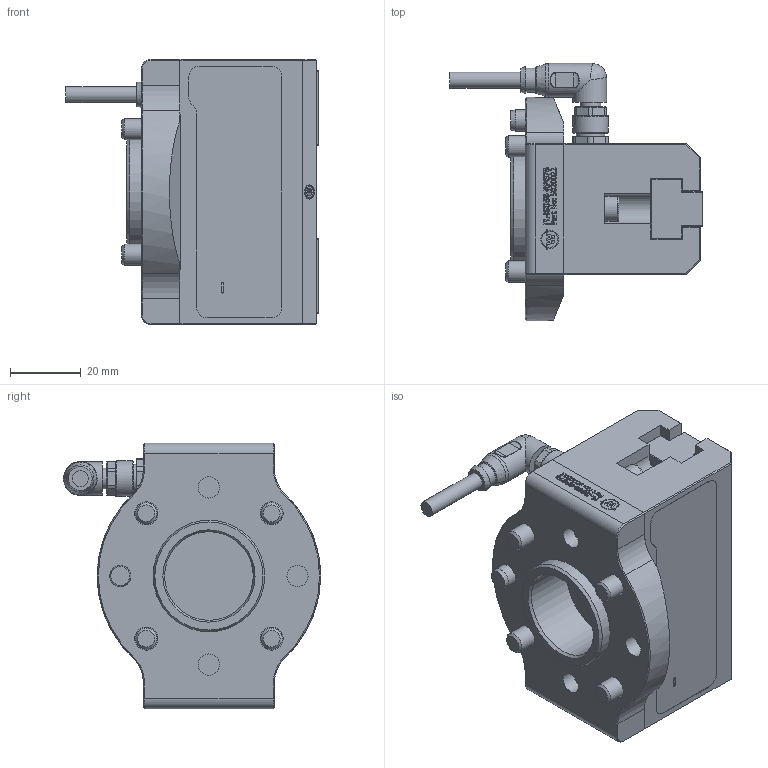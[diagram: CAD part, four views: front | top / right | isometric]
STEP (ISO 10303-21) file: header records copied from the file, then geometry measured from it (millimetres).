
FILE_DESCRIPTION((''),'2;1');
FILE_SCHEMA(('AUTOMOTIVE_DESIGN { 1 0 10303 214 1 1 1 1 }'));
Length unit declared in the file: millimetre
Products named in the file (13): FL-ISO50-RPG75 Zusammenbau.iam (GRIPKIT-P1); FL-ISO50-RPG75 - CUSTOMER; RPG75-012_customer; RPG75-012_Grundkörper; RPG75-012_Grundbacke; RPG75-012_Abdeckung; Zierschraube MIB M2x2; DIN 913 M4 x 6; Sensor-Aktor-Leitung PUR 4x0.25qmm pol. 5 m - Art.-Nr. 4020007; Zentrierhülse 6-4-5; ISO 4762 M6 x 10; ISO 4762 M4 x 20; DIN EN ISO 2338 6 h8 x 8
Assembly tree (22 placements, depth 3):
  FL-ISO50-RPG75 Zusammenbau.iam (GRIPKIT-P1)
    FL-ISO50-RPG75 - CUSTOMER
    RPG75-012_customer
      RPG75-012_Grundkörper
      RPG75-012_Grundbacke  x2
      RPG75-012_Abdeckung
      Zierschraube MIB M2x2  x4
      DIN 913 M4 x 6  x2
    Sensor-Aktor-Leitung PUR 4x0.25qmm pol. 5 m - Art.-Nr. 4020007
    Zentrierhülse 6-4-5  x2
    ISO 4762 M6 x 10  x4
    ISO 4762 M4 x 20  x2
    DIN EN ISO 2338 6 h8 x 8
Bounding box: 71.22 x 72.55 x 75 mm (x, y, z)
Volume: 137765 mm3; surface area: 42015.4 mm2
Topology: 21 solids, 21 shells, 2160 faces, 5561 edges, 3654 vertices
Faces by surface type: bspline 1010, plane 941, cylinder 116, cone 76, torus 13, sphere 4
Full cylindrical faces by diameter (mm): 1 x4, 1.2 x4, 2 x4, 2.2 x4, 4 x5, 4.2 x2, 4.5 x1, 5.7 x1, 5.8 x2, 6 x9, 6.7 x1, 7 x3, 8 x1, 9.5 x2, 10 x5, 25.011 x1, 31.5 x1
Entity records: 79055 total; most frequent: CARTESIAN_POINT 37231, ORIENTED_EDGE 9978, DIRECTION 5399, EDGE_CURVE 4989, VERTEX_POINT 3359, VECTOR 2747, LINE 2747, EDGE_LOOP 2290
